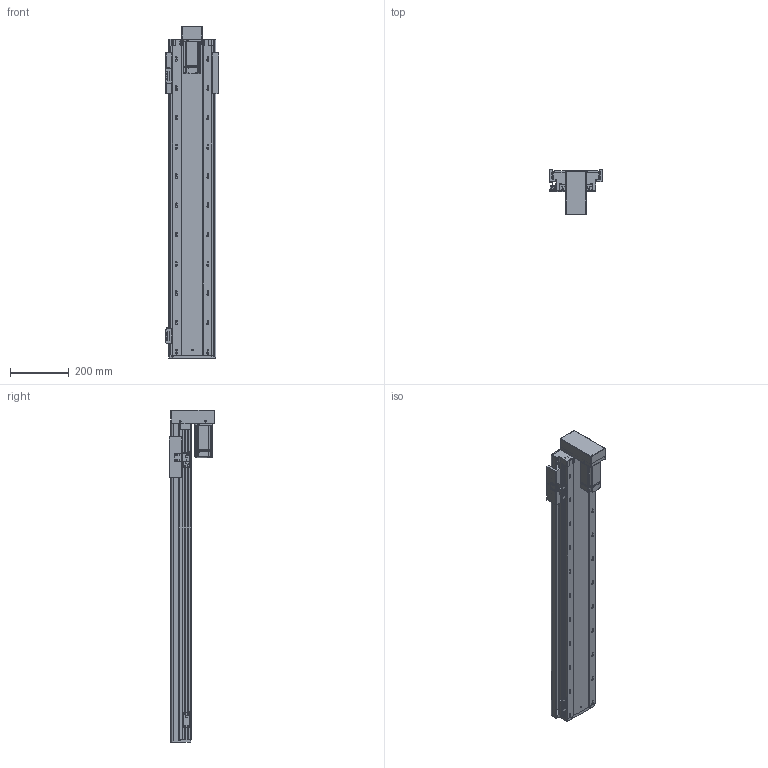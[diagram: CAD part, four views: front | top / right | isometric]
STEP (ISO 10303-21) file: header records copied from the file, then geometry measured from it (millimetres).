
FILE_DESCRIPTION (( 'STEP AP203' ), '1' );
FILE_NAME ('RY140FB-L2010-300-BK.SLDASM_850.step', '2021-02-23T02:29:04', ( '盈信电脑' ), ( '东莞市道滘镇水果街19号' ), 'SwSTEP 2.0', 'SolidWorks 2012', '' );
FILE_SCHEMA (( 'CONFIG_CONTROL_DESIGN' ));
Products named in the file (17): RY140-674嫖萇耀輸; RY140直线电机感应器674光电安装座; RY140FB-300蛌殏奻裔啣-BK_850; 覜茼ん674; RY140FB-覜茼え; RY140FB-L2010-300-BK.SLDASM_850; RY140FB-狟殏萇儂假蚾啣; RY140FB-20佪裝臏賑輸; 侂狟400W侜督萇儂; RY140狟殏萇儂欶; 15; RY140FB-转折电机端支撑座(7002); 滅袉蝶18-10; RY140FB-300蛌殏倰第菁釱-BK_850; 滅袉蝶18-24; RY140FB-綴裔啣
Assembly tree (20 placements, depth 3):
  RY140FB-L2010-300-BK.SLDASM_850
    RY140FB-300蛌殏倰第菁釱-BK_850
    RY140FB-綴裔啣
    滅袉蝶18-24  x2
    滅袉蝶18-10
    RY140FB-转折电机端支撑座(7002)
    侂狟400W侜督萇儂
      15
    RY140狟殏萇儂欶
    RY140FB-狟殏萇儂假蚾啣
    RY140FB-20佪裝臏賑輸
    RY140FB-300蛌殏奻裔啣-BK_850
    RY140-674嫖萇耀輸
      覜茼ん674  x2
      RY140直线电机感应器674光电安装座
    RY140-674嫖萇耀輸
      RY140直线电机感应器674光电安装座
      覜茼ん674
    RY140FB-覜茼え
Bounding box: 183 x 156 x 1134 mm (x, y, z)
Volume: 4325690.9 mm3; surface area: 1431024.7 mm2
Topology: 17 solids, 17 shells, 1854 faces, 5133 edges, 3263 vertices
Faces by surface type: cylinder 925, plane 723, cone 178, bspline 28
Entity records: 56639 total; most frequent: CARTESIAN_POINT 11681, DIRECTION 9098, ORIENTED_EDGE 8958, EDGE_CURVE 4479, AXIS2_PLACEMENT_3D 3296, VERTEX_POINT 2931, LINE 2506, VECTOR 2506
